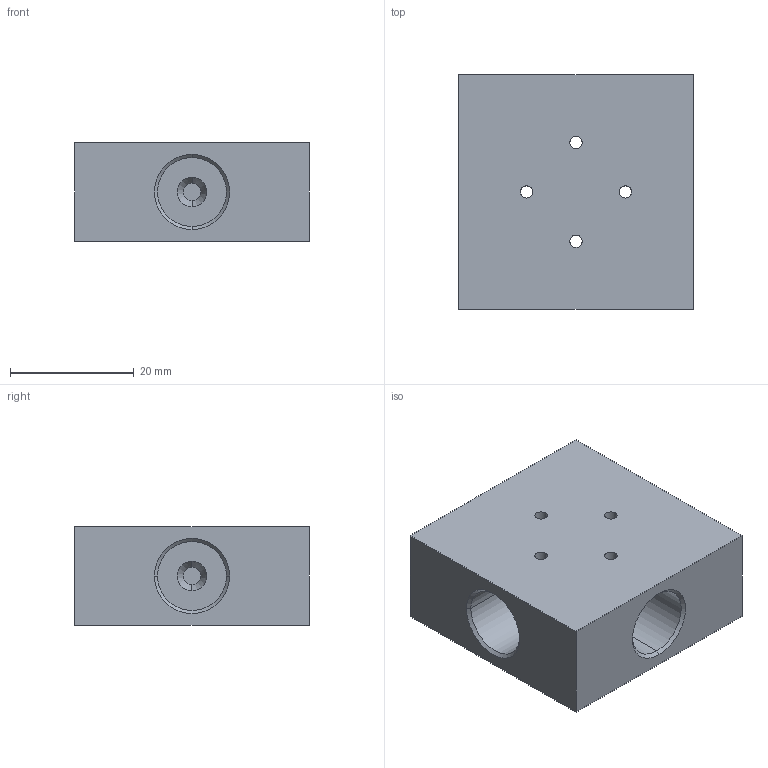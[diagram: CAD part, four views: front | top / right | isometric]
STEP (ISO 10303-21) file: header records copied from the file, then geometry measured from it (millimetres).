
FILE_DESCRIPTION (( 'STEP AP203' ), '1' );
FILE_NAME ('FT20CS04.STEP', '2026-06-26T00:48:20', ( 'USER' ), ( '' ), 'SwSTEP 2.0', 'SolidWorks 2023', '' );
FILE_SCHEMA (( 'CONFIG_CONTROL_DESIGN' ));
Length unit declared in the file: millimetre
Products named in the file (1): FT20CS04
Bounding box: 38 x 38 x 16 mm (x, y, z)
Volume: 17901.9 mm3; surface area: 7287 mm2
Topology: 1 solids, 1 shells, 62 faces, 152 edges, 96 vertices
Faces by surface type: cylinder 32, cone 16, plane 14
Entity records: 2173 total; most frequent: CARTESIAN_POINT 591, DIRECTION 318, ORIENTED_EDGE 304, EDGE_CURVE 152, AXIS2_PLACEMENT_3D 127, VERTEX_POINT 96, EDGE_LOOP 82, CIRCLE 64
